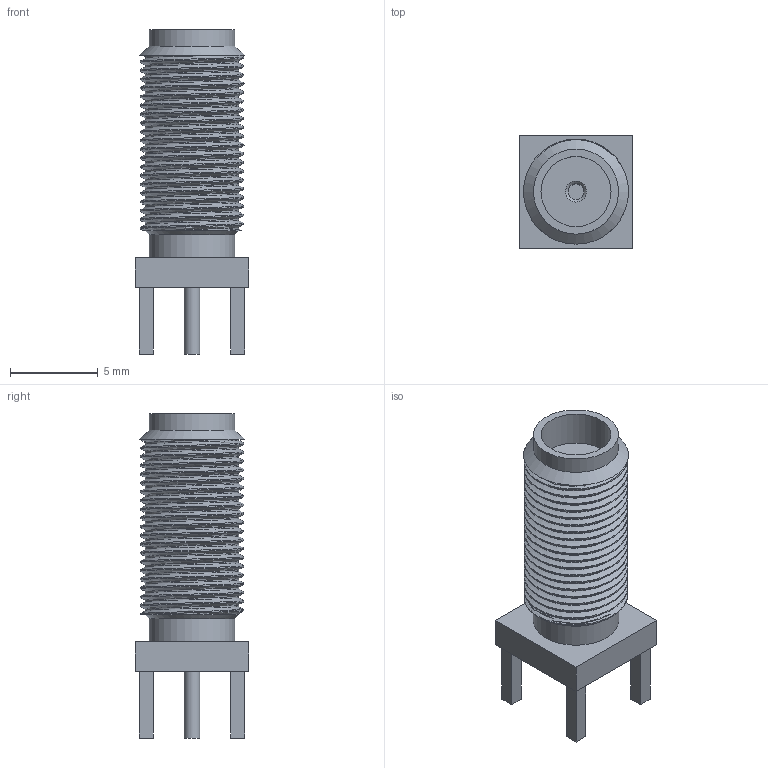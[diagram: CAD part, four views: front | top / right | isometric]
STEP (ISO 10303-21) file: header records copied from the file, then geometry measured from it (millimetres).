
FILE_DESCRIPTION(/* description */ (''),/* implementation_level */ '2;1');
FILE_NAME(/* name */ 'SMACONNECTOR18MM.step',/* time_stamp */ '2024-04-22T11:01:47+02:00',/* author */ (''),/* organization */ (''),/* preprocessor_version */ 'ST-DEVELOPER v20',/* originating_system */ 'Autodesk Translation Framework v12.20.1.177',/* authorisation */ '');
FILE_SCHEMA (('AUTOMOTIVE_DESIGN { 1 0 10303 214 3 1 1 }'));
Length unit declared in the file: millimetre
Products named in the file (1): SMACONNECTOR18MM
Bounding box: 6.5 x 6.5 x 18.5 mm (x, y, z)
Volume: 361.5 mm3; surface area: 918.7 mm2
Topology: 4 solids, 4 shells, 90 faces, 223 edges, 147 vertices
Faces by surface type: cylinder 49, plane 36, cone 3, bspline 2
Full cylindrical faces by diameter (mm): 0.9 x2, 4 x3, 4.858 x1, 4.886 x1, 5.351 x7, 5.927 x12
Entity records: 5147 total; most frequent: CARTESIAN_POINT 3116, ORIENTED_EDGE 446, DIRECTION 334, EDGE_CURVE 223, VERTEX_POINT 147, AXIS2_PLACEMENT_3D 112, LINE 110, VECTOR 110
